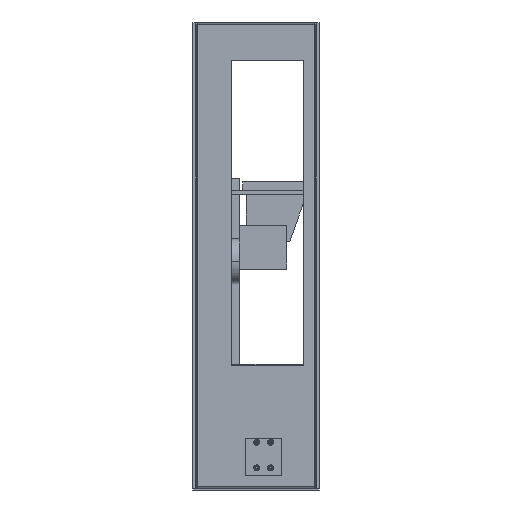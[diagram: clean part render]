
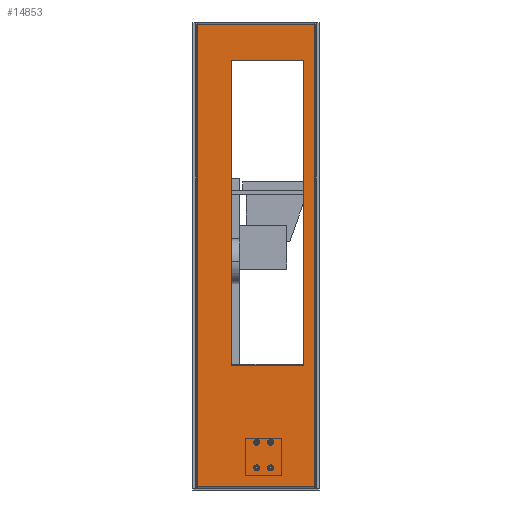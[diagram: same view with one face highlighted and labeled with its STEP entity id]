
A CAD part, front view. The second image highlights one B-rep face of the part: STEP entity #14853.
In plain terms, the highlighted planar face has unit normal (0, -1, 0) as drawn and (0, 1, 0) by its records, which use the part's own axes.
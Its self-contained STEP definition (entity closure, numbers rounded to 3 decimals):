
#10246=CARTESIAN_POINT('',(-636.,0.,2.));
#10247=VERTEX_POINT('',#10246);
#10377=CARTESIAN_POINT('',(-636.,0.,164.));
#10378=VERTEX_POINT('',#10377);
#10386=CARTESIAN_POINT('',(-0.,0.,164.));
#10387=VERTEX_POINT('',#10386);
#10388=CARTESIAN_POINT('',(-0.,0.,164.));
#10389=DIRECTION('',(-1.,0.,0.));
#10390=VECTOR('',#10389,636.);
#10391=LINE('',#10388,#10390);
#10392=EDGE_CURVE('',#10387,#10378,#10391,.T.);
#10639=CARTESIAN_POINT('',(-0.,0.,2.));
#10640=VERTEX_POINT('',#10639);
#11352=CARTESIAN_POINT('',(-50.,0.,49.));
#11353=VERTEX_POINT('',#11352);
#11360=CARTESIAN_POINT('',(-50.,0.,149.));
#11361=VERTEX_POINT('',#11360);
#11362=CARTESIAN_POINT('',(-50.,0.,49.));
#11363=DIRECTION('',(-0.,-0.,1.));
#11364=VECTOR('',#11363,100.);
#11365=LINE('',#11362,#11364);
#11366=EDGE_CURVE('',#11353,#11361,#11365,.T.);
#11391=CARTESIAN_POINT('',(-470.,0.,149.));
#11392=VERTEX_POINT('',#11391);
#11393=CARTESIAN_POINT('',(-50.,0.,149.));
#11394=DIRECTION('',(-1.,-0.,-0.));
#11395=VECTOR('',#11394,420.);
#11396=LINE('',#11393,#11395);
#11397=EDGE_CURVE('',#11361,#11392,#11396,.T.);
#11422=CARTESIAN_POINT('',(-470.,0.,49.));
#11423=VERTEX_POINT('',#11422);
#11424=CARTESIAN_POINT('',(-470.,0.,149.));
#11425=DIRECTION('',(-0.,-0.,-1.));
#11426=VECTOR('',#11425,100.);
#11427=LINE('',#11424,#11426);
#11428=EDGE_CURVE('',#11392,#11423,#11427,.T.);
#11451=CARTESIAN_POINT('',(-470.,0.,49.));
#11452=DIRECTION('',(1.,-0.,-0.));
#11453=VECTOR('',#11452,420.);
#11454=LINE('',#11451,#11453);
#11455=EDGE_CURVE('',#11423,#11353,#11454,.T.);
#11482=CARTESIAN_POINT('',(-0.,0.,2.));
#11483=DIRECTION('',(-1.,0.,0.));
#11484=VECTOR('',#11483,636.);
#11485=LINE('',#11482,#11484);
#11486=EDGE_CURVE('',#10640,#10247,#11485,.T.);
#11496=CARTESIAN_POINT('',(0.,0.,164.));
#11497=DIRECTION('',(-0.,-0.,-1.));
#11498=VECTOR('',#11497,162.);
#11499=LINE('',#11496,#11498);
#11500=EDGE_CURVE('',#10387,#10640,#11499,.T.);
#13280=CARTESIAN_POINT('',(-636.,0.,164.));
#13281=DIRECTION('',(-0.,-0.,-1.));
#13282=VECTOR('',#13281,162.);
#13283=LINE('',#13280,#13282);
#13284=EDGE_CURVE('',#10378,#10247,#13283,.T.);
#14509=CARTESIAN_POINT('',(-571.45,0.,84.));
#14510=VERTEX_POINT('',#14509);
#14517=CARTESIAN_POINT('',(-579.55,0.,84.));
#14518=VERTEX_POINT('',#14517);
#14519=CARTESIAN_POINT('',(-575.5,-0.,84.));
#14520=DIRECTION('',(0.,-1.,0.));
#14521=DIRECTION('',(1.,0.,0.));
#14522=AXIS2_PLACEMENT_3D('',#14519,#14520,#14521);
#14523=CIRCLE('',#14522,4.05);
#14524=EDGE_CURVE('',#14510,#14518,#14523,.T.);
#14542=CARTESIAN_POINT('',(-575.5,0.,84.));
#14543=DIRECTION('',(0.,-1.,0.));
#14544=DIRECTION('',(-0.5,0.,0.866));
#14545=AXIS2_PLACEMENT_3D('',#14542,#14543,#14544);
#14546=CIRCLE('',#14545,4.05);
#14547=EDGE_CURVE('',#14518,#14510,#14546,.T.);
#14609=CARTESIAN_POINT('',(-606.45,0.,84.));
#14610=VERTEX_POINT('',#14609);
#14617=CARTESIAN_POINT('',(-614.55,0.,84.));
#14618=VERTEX_POINT('',#14617);
#14619=CARTESIAN_POINT('',(-610.5,-0.,84.));
#14620=DIRECTION('',(0.,-1.,0.));
#14621=DIRECTION('',(1.,0.,0.));
#14622=AXIS2_PLACEMENT_3D('',#14619,#14620,#14621);
#14623=CIRCLE('',#14622,4.05);
#14624=EDGE_CURVE('',#14610,#14618,#14623,.T.);
#14642=CARTESIAN_POINT('',(-610.5,0.,84.));
#14643=DIRECTION('',(0.,-1.,0.));
#14644=DIRECTION('',(-0.5,0.,0.866));
#14645=AXIS2_PLACEMENT_3D('',#14642,#14643,#14644);
#14646=CIRCLE('',#14645,4.05);
#14647=EDGE_CURVE('',#14618,#14610,#14646,.T.);
#14709=CARTESIAN_POINT('',(-606.45,0.,103.));
#14710=VERTEX_POINT('',#14709);
#14717=CARTESIAN_POINT('',(-614.55,0.,103.));
#14718=VERTEX_POINT('',#14717);
#14719=CARTESIAN_POINT('',(-610.5,-0.,103.));
#14720=DIRECTION('',(0.,-1.,0.));
#14721=DIRECTION('',(1.,0.,0.));
#14722=AXIS2_PLACEMENT_3D('',#14719,#14720,#14721);
#14723=CIRCLE('',#14722,4.05);
#14724=EDGE_CURVE('',#14710,#14718,#14723,.T.);
#14742=CARTESIAN_POINT('',(-610.5,0.,103.));
#14743=DIRECTION('',(0.,-1.,0.));
#14744=DIRECTION('',(-0.5,0.,0.866));
#14745=AXIS2_PLACEMENT_3D('',#14742,#14743,#14744);
#14746=CIRCLE('',#14745,4.05);
#14747=EDGE_CURVE('',#14718,#14710,#14746,.T.);
#14804=CARTESIAN_POINT('',(0.,0.,0.));
#14805=DIRECTION('',(0.,-1.,0.));
#14806=DIRECTION('',(0.,0.,1.));
#14807=AXIS2_PLACEMENT_3D('',#14804,#14805,#14806);
#14808=PLANE('',#14807);
#14809=ORIENTED_EDGE('',*,*,#11486,.T.);
#14810=ORIENTED_EDGE('',*,*,#13284,.F.);
#14811=ORIENTED_EDGE('',*,*,#10392,.F.);
#14812=ORIENTED_EDGE('',*,*,#11500,.T.);
#14813=EDGE_LOOP('',(#14809,#14810,#14811,#14812));
#14814=FACE_BOUND('',#14813,.T.);
#14815=CARTESIAN_POINT('',(-571.45,0.,103.));
#14816=VERTEX_POINT('',#14815);
#14817=CARTESIAN_POINT('',(-579.55,0.,103.));
#14818=VERTEX_POINT('',#14817);
#14819=CARTESIAN_POINT('',(-575.5,-0.,103.));
#14820=DIRECTION('',(0.,-1.,0.));
#14821=DIRECTION('',(1.,0.,0.));
#14822=AXIS2_PLACEMENT_3D('',#14819,#14820,#14821);
#14823=CIRCLE('',#14822,4.05);
#14824=EDGE_CURVE('',#14816,#14818,#14823,.T.);
#14825=ORIENTED_EDGE('',*,*,#14824,.T.);
#14826=CARTESIAN_POINT('',(-575.5,0.,103.));
#14827=DIRECTION('',(0.,-1.,0.));
#14828=DIRECTION('',(-0.5,0.,0.866));
#14829=AXIS2_PLACEMENT_3D('',#14826,#14827,#14828);
#14830=CIRCLE('',#14829,4.05);
#14831=EDGE_CURVE('',#14818,#14816,#14830,.T.);
#14832=ORIENTED_EDGE('',*,*,#14831,.T.);
#14833=EDGE_LOOP('',(#14825,#14832));
#14834=FACE_BOUND('',#14833,.T.);
#14835=ORIENTED_EDGE('',*,*,#14724,.T.);
#14836=ORIENTED_EDGE('',*,*,#14747,.T.);
#14837=EDGE_LOOP('',(#14835,#14836));
#14838=FACE_BOUND('',#14837,.T.);
#14839=ORIENTED_EDGE('',*,*,#14624,.T.);
#14840=ORIENTED_EDGE('',*,*,#14647,.T.);
#14841=EDGE_LOOP('',(#14839,#14840));
#14842=FACE_BOUND('',#14841,.T.);
#14843=ORIENTED_EDGE('',*,*,#14524,.T.);
#14844=ORIENTED_EDGE('',*,*,#14547,.T.);
#14845=EDGE_LOOP('',(#14843,#14844));
#14846=FACE_BOUND('',#14845,.T.);
#14847=ORIENTED_EDGE('',*,*,#11366,.T.);
#14848=ORIENTED_EDGE('',*,*,#11397,.T.);
#14849=ORIENTED_EDGE('',*,*,#11428,.T.);
#14850=ORIENTED_EDGE('',*,*,#11455,.T.);
#14851=EDGE_LOOP('',(#14847,#14848,#14849,#14850));
#14852=FACE_BOUND('',#14851,.T.);
#14853=ADVANCED_FACE('',(#14814,#14834,#14838,#14842,#14846,#14852),#14808,.F.);
